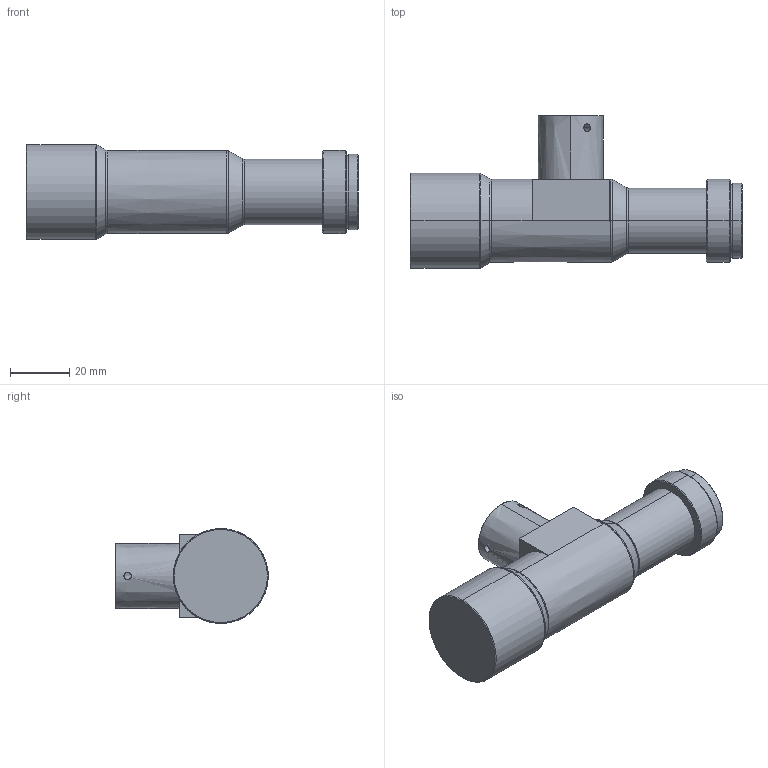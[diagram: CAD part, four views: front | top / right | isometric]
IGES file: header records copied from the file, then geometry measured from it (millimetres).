
Start section: SolidWorks IGES file using analytic representation for surfaces
Global section: file name: C:\Users\16255\Desktop\WWH10-108CTV3.STEP.IGS; native system: SolidWorks 2017; preprocessor: SolidWorks 2017; author: 16255; date: 221202.102611; units: millimetre
Bounding box: 111.9 x 51.4 x 32 mm (x, y, z)
Surface area: 14068 mm2 (no closed solid volume)
Topology: 0 solids, 0 shells, 60 faces, 1052 edges, 1052 vertices
Faces by surface type: revolution 37, bspline 23
